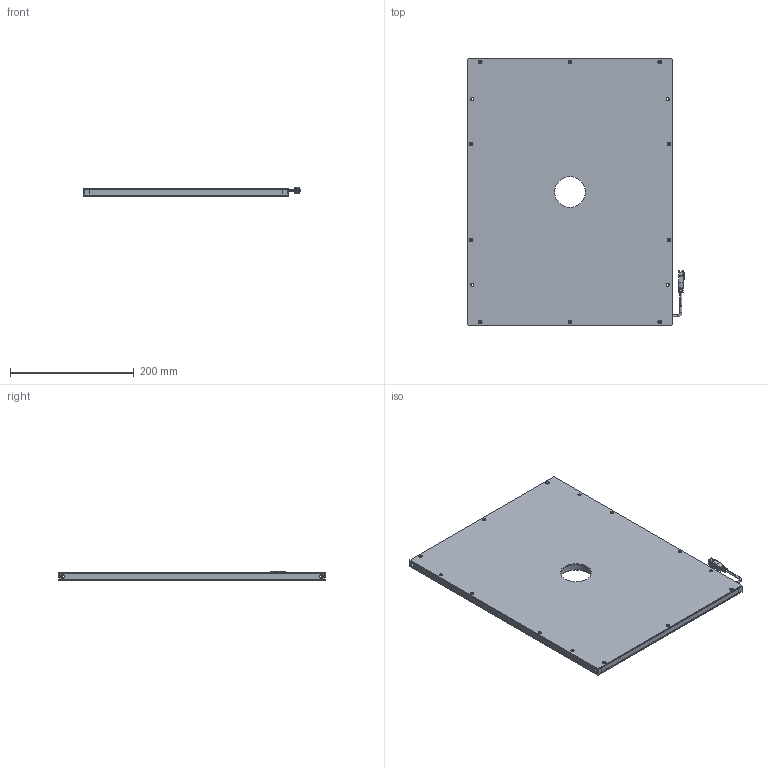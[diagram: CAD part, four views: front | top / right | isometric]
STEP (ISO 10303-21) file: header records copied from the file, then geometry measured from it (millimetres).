
FILE_DESCRIPTION (( 'STEP AP203' ), '1' );
FILE_NAME ('CRT-KFLC390290Y50-¼òÒ×3DÍ¼.STEP', '2021-11-30T01:59:15', ( 'Admin' ), ( '' ), 'SwSTEP 2.0', 'SolidWorks 2018', '' );
FILE_SCHEMA (( 'CONFIG_CONTROL_DESIGN' ));
Length unit declared in the file: millimetre
Products named in the file (1): CRT-KFLC390290Y50-潠眢3D芞
Bounding box: 349.45 x 430 x 14.85 mm (x, y, z)
Surface area: 483326.6 mm2 (no closed solid volume)
Topology: 0 solids, 16 shells, 279 faces, 909 edges, 632 vertices
Faces by surface type: plane 132, cylinder 115, cone 27, bspline 5
Entity records: 10456 total; most frequent: CARTESIAN_POINT 2338, DIRECTION 1730, ORIENTED_EDGE 1454, EDGE_CURVE 909, VERTEX_POINT 632, AXIS2_PLACEMENT_3D 589, LINE 552, VECTOR 552
